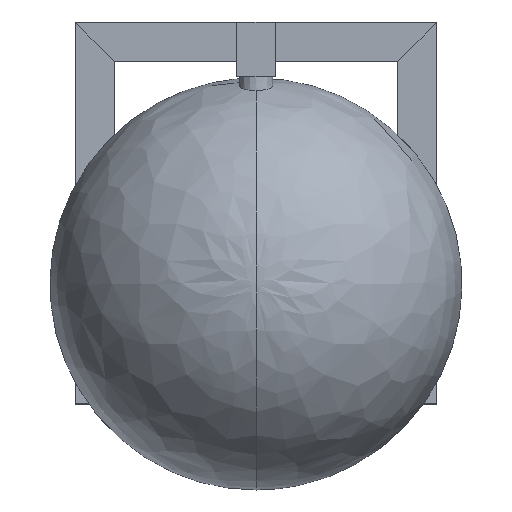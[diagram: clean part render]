
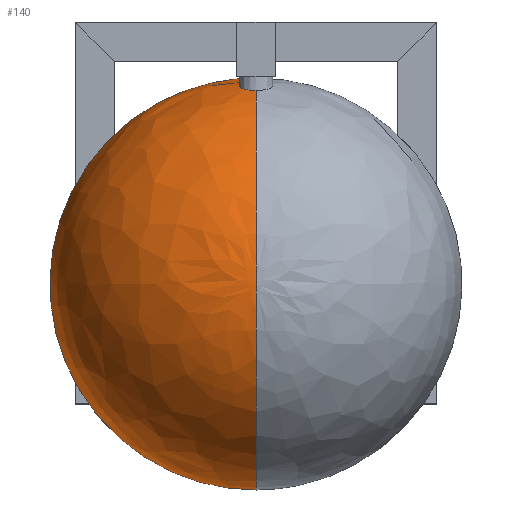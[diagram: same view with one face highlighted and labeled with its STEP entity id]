
A CAD part, top view. The second image highlights one B-rep face of the part: STEP entity #140.
In plain terms, the highlighted free-form (B-spline) face has degree [2, 2] with [3, 5] control points.
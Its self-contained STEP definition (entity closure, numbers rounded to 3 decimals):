
#53=B_SPLINE_CURVE_WITH_KNOTS($,3,(#1065,#1066,#1067,#1068,#1069,#1070,#1071,
#1072,#1073,#1074,#1075,#1076,#1077,#1078,#1079,#1080,#1081,#1082,#1083,
#1084),.UNSPECIFIED.,.F.,.F.,(4,2,2,2,2,2,2,2,2,4),(-31.188,-30.809,
-30.378,-29.948,-29.517,-27.788,
-26.054,-24.315,-22.554,-20.79),
.UNSPECIFIED.);
#60=B_SPLINE_CURVE_WITH_KNOTS($,3,(#1212,#1213,#1214,#1215,#1216,#1217,#1218,
#1219,#1220,#1221,#1222,#1223,#1224,#1225,#1226,#1227,#1228,#1229),.UNSPECIFIED.,
.F.,.F.,(4,2,2,2,2,2,2,2,4),(-20.79,-20.789,-19.031,
-17.27,-15.572,-13.87,-12.164,
-10.451,-10.397),.UNSPECIFIED.);
#140=ADVANCED_FACE($,(#194),#699,.T.);
#194=FACE_OUTER_BOUND($,#248,.T.);
#248=EDGE_LOOP($,(#306,#307,#308,#309,#310,#311));
#306=ORIENTED_EDGE($,*,*,#533,.F.);
#307=ORIENTED_EDGE($,*,*,#522,.T.);
#308=ORIENTED_EDGE($,*,*,#538,.F.);
#309=ORIENTED_EDGE($,*,*,#541,.T.);
#310=ORIENTED_EDGE($,*,*,#561,.T.);
#311=ORIENTED_EDGE($,*,*,#537,.F.);
#522=EDGE_CURVE($,#632,#631,#725,.T.);
#533=EDGE_CURVE($,#632,#640,#733,.T.);
#537=EDGE_CURVE($,#640,#641,#735,.T.);
#538=EDGE_CURVE($,#642,#631,#736,.T.);
#541=EDGE_CURVE($,#642,#652,#53,.T.);
#561=EDGE_CURVE($,#652,#641,#60,.T.);
#631=VERTEX_POINT($,#1621);
#632=VERTEX_POINT($,#1622);
#640=VERTEX_POINT($,#1630);
#641=VERTEX_POINT($,#1631);
#642=VERTEX_POINT($,#1632);
#652=VERTEX_POINT($,#1642);
#699=(
BOUNDED_SURFACE()
B_SPLINE_SURFACE(2,2,((#1238,#1239,#1240,#1241,#1242),(#1243,#1244,#1245,
#1246,#1247),(#1248,#1249,#1250,#1251,#1252)),.UNSPECIFIED.,.F.,.F.,.F.)
B_SPLINE_SURFACE_WITH_KNOTS((3,3),(3,2,3),(244.478,368.617),
(0.,1.571,3.142),.UNSPECIFIED.)
GEOMETRIC_REPRESENTATION_ITEM()
RATIONAL_B_SPLINE_SURFACE(((1.,0.707,1.,0.707,1.),
(0.714,0.505,0.714,0.505,
0.714),(1.,0.707,1.,0.707,1.)))
REPRESENTATION_ITEM($)
SURFACE()
);
#725=(
BOUNDED_CURVE()
B_SPLINE_CURVE(2,(#931,#932,#933),.UNSPECIFIED.,.F.,.F.)
B_SPLINE_CURVE_WITH_KNOTS((3,3),(244.478,368.617),.UNSPECIFIED.)
CURVE()
GEOMETRIC_REPRESENTATION_ITEM()
RATIONAL_B_SPLINE_CURVE((1.,0.714,1.))
REPRESENTATION_ITEM($)
);
#733=(
BOUNDED_CURVE()
B_SPLINE_CURVE(2,(#983,#984,#985,#986,#987),.UNSPECIFIED.,.F.,.F.)
B_SPLINE_CURVE_WITH_KNOTS((3,2,3),(0.,1.571,3.142),
.UNSPECIFIED.)
CURVE()
GEOMETRIC_REPRESENTATION_ITEM()
RATIONAL_B_SPLINE_CURVE((1.,0.707,1.,0.707,1.))
REPRESENTATION_ITEM($)
);
#735=(
BOUNDED_CURVE()
B_SPLINE_CURVE(2,(#1032,#1033,#1034),.UNSPECIFIED.,.F.,.F.)
B_SPLINE_CURVE_WITH_KNOTS((3,3),(244.478,257.533),.UNSPECIFIED.)
CURVE()
GEOMETRIC_REPRESENTATION_ITEM()
RATIONAL_B_SPLINE_CURVE((1.,0.997,1.))
REPRESENTATION_ITEM($)
);
#736=(
BOUNDED_CURVE()
B_SPLINE_CURVE(2,(#1035,#1036,#1037),.UNSPECIFIED.,.F.,.F.)
B_SPLINE_CURVE_WITH_KNOTS((3,3),(271.025,368.617),.UNSPECIFIED.)
CURVE()
GEOMETRIC_REPRESENTATION_ITEM()
RATIONAL_B_SPLINE_CURVE((1.,0.815,1.))
REPRESENTATION_ITEM($)
);
#931=CARTESIAN_POINT($,(5919.953,5059.616,153.025));
#932=CARTESIAN_POINT($,(5919.953,5061.113,231.5));
#933=CARTESIAN_POINT($,(5919.953,5139.602,231.5));
#983=CARTESIAN_POINT($,(5919.953,5059.616,153.025));
#984=CARTESIAN_POINT($,(5839.968,5059.616,153.025));
#985=CARTESIAN_POINT($,(5839.968,5139.602,153.025));
#986=CARTESIAN_POINT($,(5839.968,5219.587,153.025));
#987=CARTESIAN_POINT($,(5919.953,5219.587,153.025));
#1032=CARTESIAN_POINT($,(5919.953,5219.587,153.025));
#1033=CARTESIAN_POINT($,(5919.953,5219.472,159.099));
#1034=CARTESIAN_POINT($,(5919.953,5218.277,166.));
#1035=CARTESIAN_POINT($,(5919.953,5214.727,179.));
#1036=CARTESIAN_POINT($,(5919.953,5196.433,231.5));
#1037=CARTESIAN_POINT($,(5919.953,5139.602,231.5));
#1065=CARTESIAN_POINT($,(5919.953,5214.727,179.));
#1066=CARTESIAN_POINT($,(5919.827,5214.727,179.));
#1067=CARTESIAN_POINT($,(5919.701,5214.728,178.996));
#1068=CARTESIAN_POINT($,(5919.431,5214.732,178.981));
#1069=CARTESIAN_POINT($,(5919.288,5214.736,178.967));
#1070=CARTESIAN_POINT($,(5919.003,5214.746,178.932));
#1071=CARTESIAN_POINT($,(5918.861,5214.752,178.909));
#1072=CARTESIAN_POINT($,(5918.579,5214.767,178.855));
#1073=CARTESIAN_POINT($,(5918.439,5214.776,178.823));
#1074=CARTESIAN_POINT($,(5917.743,5214.827,178.64));
#1075=CARTESIAN_POINT($,(5917.21,5214.889,178.42));
#1076=CARTESIAN_POINT($,(5916.217,5215.048,177.85));
#1077=CARTESIAN_POINT($,(5915.762,5215.145,177.501));
#1078=CARTESIAN_POINT($,(5914.957,5215.368,176.697));
#1079=CARTESIAN_POINT($,(5914.611,5215.493,176.245));
#1080=CARTESIAN_POINT($,(5914.041,5215.765,175.261));
#1081=CARTESIAN_POINT($,(5913.823,5215.91,174.733));
#1082=CARTESIAN_POINT($,(5913.528,5216.212,173.634));
#1083=CARTESIAN_POINT($,(5913.453,5216.367,173.068));
#1084=CARTESIAN_POINT($,(5913.453,5216.522,172.5));
#1212=CARTESIAN_POINT($,(5913.453,5216.522,172.5));
#1213=CARTESIAN_POINT($,(5913.453,5216.522,172.5));
#1214=CARTESIAN_POINT($,(5913.453,5216.522,172.499));
#1215=CARTESIAN_POINT($,(5913.453,5216.677,171.933));
#1216=CARTESIAN_POINT($,(5913.527,5216.83,171.37));
#1217=CARTESIAN_POINT($,(5913.821,5217.128,170.272));
#1218=CARTESIAN_POINT($,(5914.04,5217.272,169.742));
#1219=CARTESIAN_POINT($,(5914.602,5217.534,168.769));
#1220=CARTESIAN_POINT($,(5914.939,5217.654,168.326));
#1221=CARTESIAN_POINT($,(5915.723,5217.867,167.534));
#1222=CARTESIAN_POINT($,(5916.167,5217.959,167.187));
#1223=CARTESIAN_POINT($,(5917.138,5218.113,166.614));
#1224=CARTESIAN_POINT($,(5917.662,5218.173,166.391));
#1225=CARTESIAN_POINT($,(5918.759,5218.254,166.085));
#1226=CARTESIAN_POINT($,(5919.327,5218.276,166.005));
#1227=CARTESIAN_POINT($,(5919.917,5218.277,166.));
#1228=CARTESIAN_POINT($,(5919.935,5218.277,166.));
#1229=CARTESIAN_POINT($,(5919.953,5218.277,166.));
#1238=CARTESIAN_POINT($,(5919.953,5059.616,153.025));
#1239=CARTESIAN_POINT($,(5839.968,5059.616,153.025));
#1240=CARTESIAN_POINT($,(5839.968,5139.602,153.025));
#1241=CARTESIAN_POINT($,(5839.968,5219.587,153.025));
#1242=CARTESIAN_POINT($,(5919.953,5219.587,153.025));
#1243=CARTESIAN_POINT($,(5919.953,5061.113,231.5));
#1244=CARTESIAN_POINT($,(5841.464,5061.113,231.5));
#1245=CARTESIAN_POINT($,(5841.464,5139.602,231.5));
#1246=CARTESIAN_POINT($,(5841.464,5218.091,231.5));
#1247=CARTESIAN_POINT($,(5919.953,5218.091,231.5));
#1248=CARTESIAN_POINT($,(5919.953,5139.602,231.5));
#1249=CARTESIAN_POINT($,(5919.953,5139.602,231.5));
#1250=CARTESIAN_POINT($,(5919.953,5139.602,231.5));
#1251=CARTESIAN_POINT($,(5919.953,5139.602,231.5));
#1252=CARTESIAN_POINT($,(5919.953,5139.602,231.5));
#1621=CARTESIAN_POINT($,(5919.953,5139.602,231.5));
#1622=CARTESIAN_POINT($,(5919.953,5059.616,153.025));
#1630=CARTESIAN_POINT($,(5919.953,5219.587,153.025));
#1631=CARTESIAN_POINT($,(5919.953,5218.277,166.));
#1632=CARTESIAN_POINT($,(5919.953,5214.727,179.));
#1642=CARTESIAN_POINT($,(5913.453,5216.522,172.5));
